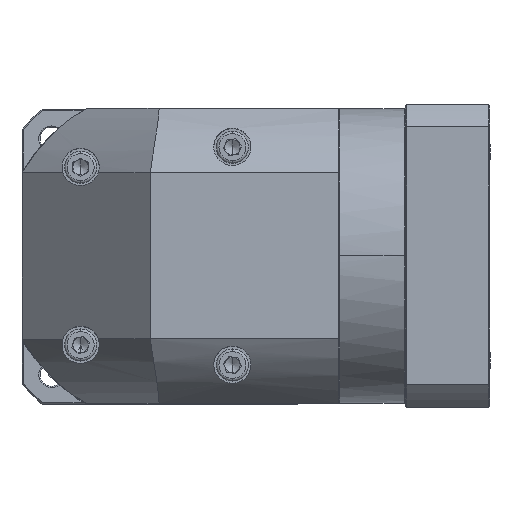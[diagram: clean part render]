
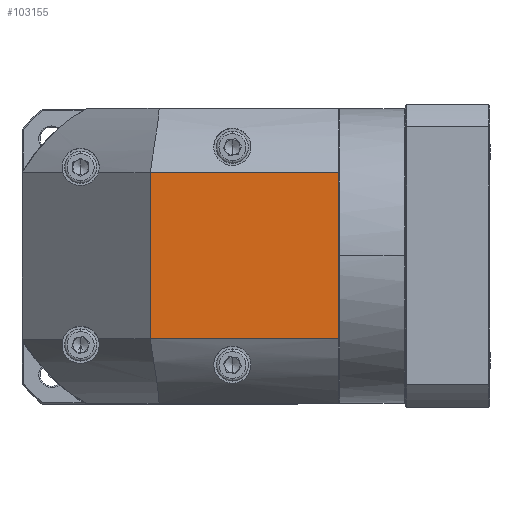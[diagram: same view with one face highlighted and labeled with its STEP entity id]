
A CAD part, top view. The second image highlights one B-rep face of the part: STEP entity #103155.
In plain terms, the highlighted planar face has unit normal (0, 0, 1).
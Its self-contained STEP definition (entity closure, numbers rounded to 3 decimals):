
#562 = CARTESIAN_POINT ( 'NONE',  ( 40.715, 37.434, 73.117 ) ) ;
#1674 = VECTOR ( 'NONE', #111936, 1000. ) ;
#2825 = ORIENTED_EDGE ( 'NONE', *, *, #77004, .F. ) ;
#3531 = EDGE_CURVE ( 'NONE', #61569, #102372, #99419, .T. ) ;
#4501 = VERTEX_POINT ( 'NONE', #36453 ) ;
#11061 = AXIS2_PLACEMENT_3D ( 'NONE', #36607, #111218, #99610 ) ;
#15026 = EDGE_LOOP ( 'NONE', ( #38062, #2825, #95278, #137948 ) ) ;
#21381 = VERTEX_POINT ( 'NONE', #562 ) ;
#24545 = CARTESIAN_POINT ( 'NONE',  ( -9.285, 102.234, 73.117 ) ) ;
#31585 = LINE ( 'NONE', #53532, #93311 ) ;
#36453 = CARTESIAN_POINT ( 'NONE',  ( 114.115, 37.434, 73.117 ) ) ;
#36607 = CARTESIAN_POINT ( 'NONE',  ( 48.215, 69.834, 73.117 ) ) ;
#37316 = CARTESIAN_POINT ( 'NONE',  ( -9.285, 37.434, 73.117 ) ) ;
#38062 = ORIENTED_EDGE ( 'NONE', *, *, #3531, .F. ) ;
#44593 = DIRECTION ( 'NONE',  ( 1., 0., 0. ) ) ;
#45535 = DIRECTION ( 'NONE',  ( 0., 1., 0. ) ) ;
#53532 = CARTESIAN_POINT ( 'NONE',  ( 40.715, 127.334, 73.117 ) ) ;
#61569 = VERTEX_POINT ( 'NONE', #85713 ) ;
#77004 = EDGE_CURVE ( 'NONE', #21381, #61569, #31585, .T. ) ;
#80255 = DIRECTION ( 'NONE',  ( 0., -1., 0. ) ) ;
#85137 = LINE ( 'NONE', #90019, #108491 ) ;
#85198 = LINE ( 'NONE', #37316, #1674 ) ;
#85713 = CARTESIAN_POINT ( 'NONE',  ( 40.715, 102.234, 73.117 ) ) ;
#89727 = FACE_OUTER_BOUND ( 'NONE', #15026, .T. ) ;
#90019 = CARTESIAN_POINT ( 'NONE',  ( 114.115, 127.334, 73.117 ) ) ;
#90043 = EDGE_CURVE ( 'NONE', #102372, #4501, #85137, .T. ) ;
#93311 = VECTOR ( 'NONE', #45535, 1000. ) ;
#95278 = ORIENTED_EDGE ( 'NONE', *, *, #126743, .F. ) ;
#99419 = LINE ( 'NONE', #24545, #117770 ) ;
#99610 = DIRECTION ( 'NONE',  ( 0., -1., 0. ) ) ;
#102372 = VERTEX_POINT ( 'NONE', #135007 ) ;
#103155 = ADVANCED_FACE ( 'NONE', ( #89727 ), #132205, .F. ) ;
#108491 = VECTOR ( 'NONE', #80255, 1000. ) ;
#111218 = DIRECTION ( 'NONE',  ( 0., 0., -1. ) ) ;
#111936 = DIRECTION ( 'NONE',  ( -1., 0., 0. ) ) ;
#117770 = VECTOR ( 'NONE', #44593, 1000. ) ;
#126743 = EDGE_CURVE ( 'NONE', #4501, #21381, #85198, .T. ) ;
#132205 = PLANE ( 'NONE',  #11061 ) ;
#135007 = CARTESIAN_POINT ( 'NONE',  ( 114.115, 102.234, 73.117 ) ) ;
#137948 = ORIENTED_EDGE ( 'NONE', *, *, #90043, .F. ) ;
